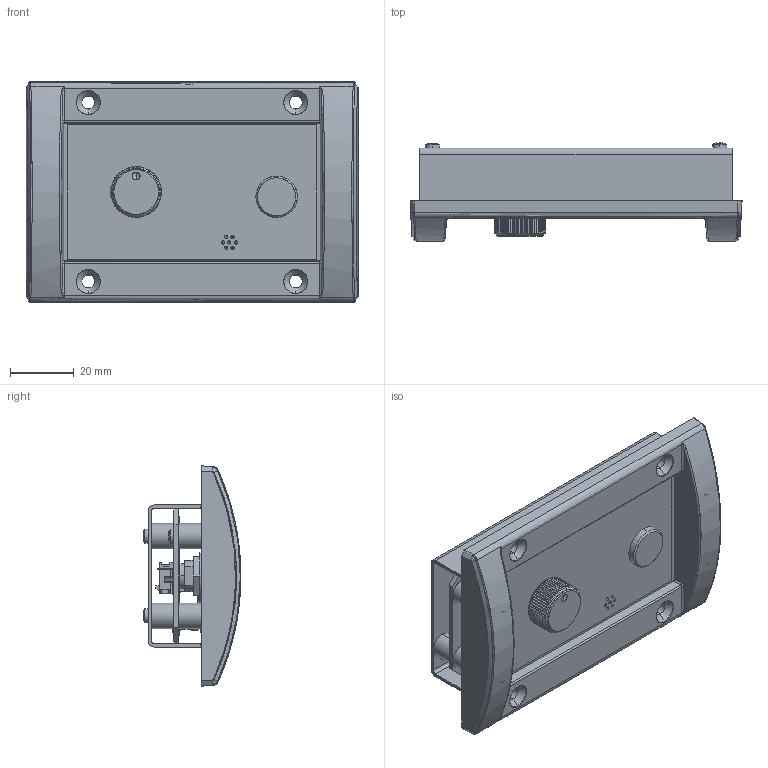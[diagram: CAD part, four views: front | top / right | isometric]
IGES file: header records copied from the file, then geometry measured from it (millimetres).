
Start section: SolidWorks IGES file using analytic representation for surfaces
Global section: file name: Y:\YLEISET\LYHYTAIKAISET SIIRROT\Jussi\iges\Control panel.IGS; native system: SolidWorks 2012; preprocessor: SolidWorks 2012; author: janne; date: 131204.191319; units: millimetre
Bounding box: 104 x 30.68 x 69 mm (x, y, z)
Surface area: 52680.9 mm2 (no closed solid volume)
Topology: 0 solids, 0 shells, 1555 faces, 17226 edges, 17184 vertices
Faces by surface type: bspline 967, revolution 588
